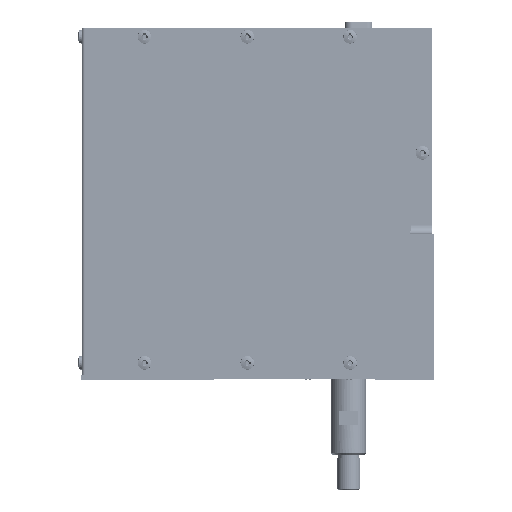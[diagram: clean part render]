
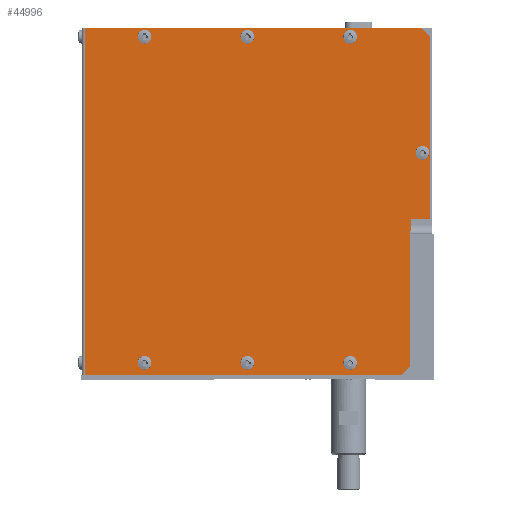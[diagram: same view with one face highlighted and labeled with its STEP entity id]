
A CAD part, left-side view. The second image highlights one B-rep face of the part: STEP entity #44996.
In plain terms, the highlighted planar face has unit normal (-1, 0, 0) as drawn and (0, 1, 0) by its records, which use the part's own axes.
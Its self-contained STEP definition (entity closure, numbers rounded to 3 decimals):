
#44798=CARTESIAN_POINT('',(75.806,21.977,0.0));
#44799=VERTEX_POINT('',#44798);
#44800=CARTESIAN_POINT('',(78.806,21.977,3.));
#44801=VERTEX_POINT('',#44800);
#44802=CARTESIAN_POINT('',(75.806,21.977,0.0));
#44803=DIRECTION('',(0.707,0.0,0.707));
#44804=VECTOR('',#44803,4.243);
#44805=LINE('',#44802,#44804);
#44806=EDGE_CURVE('',#44799,#44801,#44805,.T.);
#44839=CARTESIAN_POINT('',(78.806,21.977,65.0));
#44840=VERTEX_POINT('',#44839);
#44841=CARTESIAN_POINT('',(78.806,21.977,3.));
#44842=DIRECTION('',(0.0,0.0,1.0));
#44843=VECTOR('',#44842,62.0);
#44844=LINE('',#44841,#44843);
#44845=EDGE_CURVE('',#44801,#44840,#44844,.T.);
#44864=CARTESIAN_POINT('',(-38.694,21.977,0.0));
#44865=DIRECTION('',(0.0,1.0,0.0));
#44866=DIRECTION('',(0.0,0.0,1.0));
#44867=AXIS2_PLACEMENT_3D('',#44864,#44865,#44866);
#44868=PLANE('',#44867);
#44869=ORIENTED_EDGE('',*,*,#44806,.F.);
#44870=CARTESIAN_POINT('',(-38.694,21.977,0.0));
#44871=VERTEX_POINT('',#44870);
#44872=CARTESIAN_POINT('',(-38.694,21.977,0.0));
#44873=DIRECTION('',(1.0,0.0,0.0));
#44874=VECTOR('',#44873,114.5);
#44875=LINE('',#44872,#44874);
#44876=EDGE_CURVE('',#44871,#44799,#44875,.T.);
#44877=ORIENTED_EDGE('',*,*,#44876,.F.);
#44878=CARTESIAN_POINT('',(-38.694,21.977,118.0));
#44879=VERTEX_POINT('',#44878);
#44880=CARTESIAN_POINT('',(-38.694,21.977,0.0));
#44881=DIRECTION('',(0.0,0.0,1.0));
#44882=VECTOR('',#44881,118.0);
#44883=LINE('',#44880,#44882);
#44884=EDGE_CURVE('',#44871,#44879,#44883,.T.);
#44885=ORIENTED_EDGE('',*,*,#44884,.T.);
#44886=CARTESIAN_POINT('',(69.306,21.977,118.0));
#44887=VERTEX_POINT('',#44886);
#44888=CARTESIAN_POINT('',(-38.694,21.977,118.0));
#44889=DIRECTION('',(1.0,0.0,0.0));
#44890=VECTOR('',#44889,108.);
#44891=LINE('',#44888,#44890);
#44892=EDGE_CURVE('',#44879,#44887,#44891,.T.);
#44893=ORIENTED_EDGE('',*,*,#44892,.T.);
#44894=CARTESIAN_POINT('',(72.306,21.977,115.0));
#44895=VERTEX_POINT('',#44894);
#44896=CARTESIAN_POINT('',(72.306,21.977,115.0));
#44897=DIRECTION('',(-0.707,0.,0.707));
#44898=VECTOR('',#44897,4.243);
#44899=LINE('',#44896,#44898);
#44900=EDGE_CURVE('',#44895,#44887,#44899,.T.);
#44901=ORIENTED_EDGE('',*,*,#44900,.F.);
#44902=CARTESIAN_POINT('',(72.306,21.977,65.));
#44903=VERTEX_POINT('',#44902);
#44904=CARTESIAN_POINT('',(72.306,21.977,115.0));
#44905=DIRECTION('',(0.0,0.0,-1.0));
#44906=VECTOR('',#44905,50.);
#44907=LINE('',#44904,#44906);
#44908=EDGE_CURVE('',#44895,#44903,#44907,.T.);
#44909=ORIENTED_EDGE('',*,*,#44908,.T.);
#44910=CARTESIAN_POINT('',(72.306,21.977,65.));
#44911=DIRECTION('',(1.0,0.0,0.0));
#44912=VECTOR('',#44911,6.5);
#44913=LINE('',#44910,#44912);
#44914=EDGE_CURVE('',#44903,#44840,#44913,.T.);
#44915=ORIENTED_EDGE('',*,*,#44914,.T.);
#44916=ORIENTED_EDGE('',*,*,#44845,.F.);
#44917=EDGE_LOOP('',(#44869,#44877,#44885,#44893,#44901,#44909,#44915,#44916));
#44918=FACE_OUTER_BOUND('',#44917,.T.);
#44919=CARTESIAN_POINT('',(50.456,21.977,114.0));
#44920=VERTEX_POINT('',#44919);
#44921=CARTESIAN_POINT('',(51.706,21.977,114.0));
#44922=DIRECTION('',(0.0,-1.0,0.0));
#44923=DIRECTION('',(-1.0,0.0,0.0));
#44924=AXIS2_PLACEMENT_3D('',#44921,#44922,#44923);
#44925=CIRCLE('',#44924,1.25);
#44926=EDGE_CURVE('',#44920,#44920,#44925,.T.);
#44927=ORIENTED_EDGE('',*,*,#44926,.T.);
#44928=EDGE_LOOP('',(#44927));
#44929=FACE_BOUND('',#44928,.T.);
#44930=CARTESIAN_POINT('',(15.456,21.977,114.0));
#44931=VERTEX_POINT('',#44930);
#44932=CARTESIAN_POINT('',(16.706,21.977,114.0));
#44933=DIRECTION('',(0.0,-1.0,0.0));
#44934=DIRECTION('',(-1.0,0.0,0.0));
#44935=AXIS2_PLACEMENT_3D('',#44932,#44933,#44934);
#44936=CIRCLE('',#44935,1.25);
#44937=EDGE_CURVE('',#44931,#44931,#44936,.T.);
#44938=ORIENTED_EDGE('',*,*,#44937,.T.);
#44939=EDGE_LOOP('',(#44938));
#44940=FACE_BOUND('',#44939,.T.);
#44941=CARTESIAN_POINT('',(-19.544,21.977,114.0));
#44942=VERTEX_POINT('',#44941);
#44943=CARTESIAN_POINT('',(-18.294,21.977,114.0));
#44944=DIRECTION('',(0.0,-1.0,0.0));
#44945=DIRECTION('',(-1.0,0.0,0.0));
#44946=AXIS2_PLACEMENT_3D('',#44943,#44944,#44945);
#44947=CIRCLE('',#44946,1.25);
#44948=EDGE_CURVE('',#44942,#44942,#44947,.T.);
#44949=ORIENTED_EDGE('',*,*,#44948,.T.);
#44950=EDGE_LOOP('',(#44949));
#44951=FACE_BOUND('',#44950,.T.);
#44952=CARTESIAN_POINT('',(75.056,21.977,42.5));
#44953=VERTEX_POINT('',#44952);
#44954=CARTESIAN_POINT('',(76.306,21.977,42.5));
#44955=DIRECTION('',(0.0,-1.0,0.0));
#44956=DIRECTION('',(1.0,0.0,0.0));
#44957=AXIS2_PLACEMENT_3D('',#44954,#44955,#44956);
#44958=CIRCLE('',#44957,1.25);
#44959=EDGE_CURVE('',#44953,#44953,#44958,.T.);
#44960=ORIENTED_EDGE('',*,*,#44959,.T.);
#44961=EDGE_LOOP('',(#44960));
#44962=FACE_BOUND('',#44961,.T.);
#44963=CARTESIAN_POINT('',(50.456,21.977,3.));
#44964=VERTEX_POINT('',#44963);
#44965=CARTESIAN_POINT('',(51.706,21.977,3.));
#44966=DIRECTION('',(0.0,-1.0,0.0));
#44967=DIRECTION('',(1.0,0.0,0.0));
#44968=AXIS2_PLACEMENT_3D('',#44965,#44966,#44967);
#44969=CIRCLE('',#44968,1.25);
#44970=EDGE_CURVE('',#44964,#44964,#44969,.T.);
#44971=ORIENTED_EDGE('',*,*,#44970,.T.);
#44972=EDGE_LOOP('',(#44971));
#44973=FACE_BOUND('',#44972,.T.);
#44974=CARTESIAN_POINT('',(15.456,21.977,3.));
#44975=VERTEX_POINT('',#44974);
#44976=CARTESIAN_POINT('',(16.706,21.977,3.));
#44977=DIRECTION('',(0.0,-1.0,0.0));
#44978=DIRECTION('',(1.0,0.0,0.0));
#44979=AXIS2_PLACEMENT_3D('',#44976,#44977,#44978);
#44980=CIRCLE('',#44979,1.25);
#44981=EDGE_CURVE('',#44975,#44975,#44980,.T.);
#44982=ORIENTED_EDGE('',*,*,#44981,.T.);
#44983=EDGE_LOOP('',(#44982));
#44984=FACE_BOUND('',#44983,.T.);
#44985=CARTESIAN_POINT('',(-19.544,21.977,3.));
#44986=VERTEX_POINT('',#44985);
#44987=CARTESIAN_POINT('',(-18.294,21.977,3.));
#44988=DIRECTION('',(0.0,-1.0,0.0));
#44989=DIRECTION('',(1.0,0.0,0.0));
#44990=AXIS2_PLACEMENT_3D('',#44987,#44988,#44989);
#44991=CIRCLE('',#44990,1.25);
#44992=EDGE_CURVE('',#44986,#44986,#44991,.T.);
#44993=ORIENTED_EDGE('',*,*,#44992,.T.);
#44994=EDGE_LOOP('',(#44993));
#44995=FACE_BOUND('',#44994,.T.);
#44996=ADVANCED_FACE('',(#44918,#44929,#44940,#44951,#44962,#44973,#44984,#44995),#44868,.T.);
